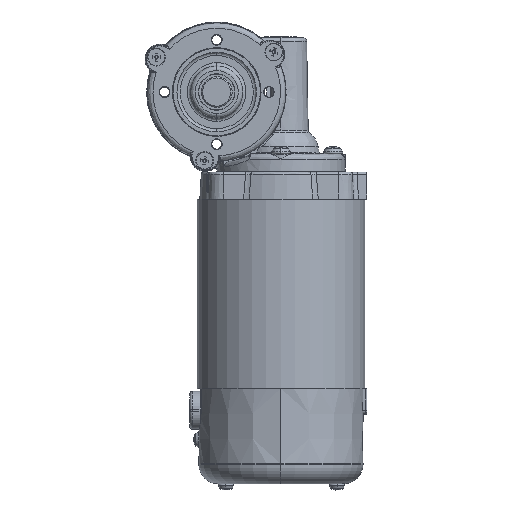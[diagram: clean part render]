
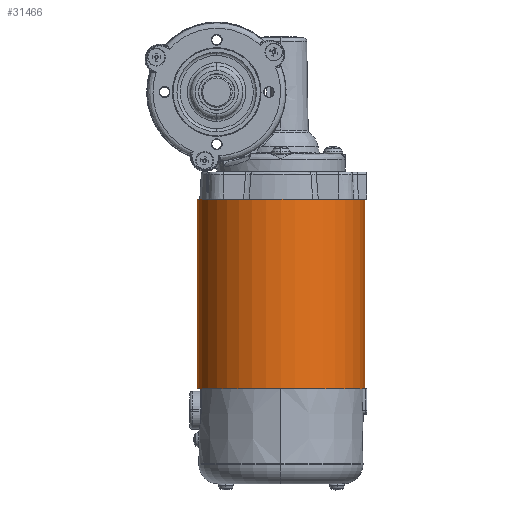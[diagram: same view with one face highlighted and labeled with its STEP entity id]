
A CAD part, left-side view. The second image highlights one B-rep face of the part: STEP entity #31466.
In plain terms, the highlighted cylindrical face has radius 33.096 mm (diameter 66.192 mm), a partial arc.
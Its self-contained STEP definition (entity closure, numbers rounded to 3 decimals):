
#2157 = ORIENTED_EDGE ( 'NONE', *, *, #35255, .T. ) ;
#2530 = DIRECTION ( 'NONE',  ( 0., 0., -1. ) ) ;
#3484 = AXIS2_PLACEMENT_3D ( 'NONE', #10391, #46037, #25659 ) ;
#3488 = AXIS2_PLACEMENT_3D ( 'NONE', #46803, #47272, #82011 ) ;
#7242 = CARTESIAN_POINT ( 'NONE',  ( 75.786, 72.652, 257.172 ) ) ;
#7712 = CARTESIAN_POINT ( 'NONE',  ( 75.786, 72.652, 182.242 ) ) ;
#9277 = DIRECTION ( 'NONE',  ( 0., 1., 0. ) ) ;
#9449 = DIRECTION ( 'NONE',  ( 0., 0., -1. ) ) ;
#10391 = CARTESIAN_POINT ( 'NONE',  ( 75.786, 39.556, 257.172 ) ) ;
#10599 = CARTESIAN_POINT ( 'NONE',  ( 75.786, 39.556, 257.172 ) ) ;
#25659 = DIRECTION ( 'NONE',  ( 0., 1., 0. ) ) ;
#30930 = EDGE_CURVE ( 'NONE', #65856, #51705, #47862, .T. ) ;
#31466 = ADVANCED_FACE ( 'NONE', ( #85770 ), #70979, .T. ) ;
#35255 = EDGE_CURVE ( 'NONE', #35700, #51722, #53955, .T. ) ;
#35700 = VERTEX_POINT ( 'NONE', #7712 ) ;
#41112 = CARTESIAN_POINT ( 'NONE',  ( 75.786, 6.46, 182.242 ) ) ;
#43672 = EDGE_LOOP ( 'NONE', ( #44222, #57078, #58314, #2157 ) ) ;
#44222 = ORIENTED_EDGE ( 'NONE', *, *, #46007, .F. ) ;
#46007 = EDGE_CURVE ( 'NONE', #65856, #51722, #47977, .T. ) ;
#46037 = DIRECTION ( 'NONE',  ( 0., 0., -1. ) ) ;
#46803 = CARTESIAN_POINT ( 'NONE',  ( 75.786, 39.556, 182.242 ) ) ;
#47272 = DIRECTION ( 'NONE',  ( 0., 0., 1. ) ) ;
#47862 = CIRCLE ( 'NONE', #56512, 33.096 ) ;
#47977 = LINE ( 'NONE', #75551, #82793 ) ;
#51705 = VERTEX_POINT ( 'NONE', #80916 ) ;
#51722 = VERTEX_POINT ( 'NONE', #41112 ) ;
#53569 = VECTOR ( 'NONE', #9449, 1000. ) ;
#53955 = CIRCLE ( 'NONE', #3488, 33.096 ) ;
#54761 = DIRECTION ( 'NONE',  ( 0., 0., -1. ) ) ;
#56512 = AXIS2_PLACEMENT_3D ( 'NONE', #10599, #2530, #9277 ) ;
#57078 = ORIENTED_EDGE ( 'NONE', *, *, #30930, .T. ) ;
#58314 = ORIENTED_EDGE ( 'NONE', *, *, #69834, .T. ) ;
#65402 = CARTESIAN_POINT ( 'NONE',  ( 75.786, 6.46, 257.172 ) ) ;
#65856 = VERTEX_POINT ( 'NONE', #65402 ) ;
#69834 = EDGE_CURVE ( 'NONE', #51705, #35700, #70920, .T. ) ;
#70920 = LINE ( 'NONE', #7242, #53569 ) ;
#70979 = CYLINDRICAL_SURFACE ( 'NONE', #3484, 33.096 ) ;
#75551 = CARTESIAN_POINT ( 'NONE',  ( 75.786, 6.46, 257.172 ) ) ;
#80916 = CARTESIAN_POINT ( 'NONE',  ( 75.786, 72.652, 257.172 ) ) ;
#82011 = DIRECTION ( 'NONE',  ( 0., 1., 0. ) ) ;
#82793 = VECTOR ( 'NONE', #54761, 1000. ) ;
#85770 = FACE_OUTER_BOUND ( 'NONE', #43672, .T. ) ;
